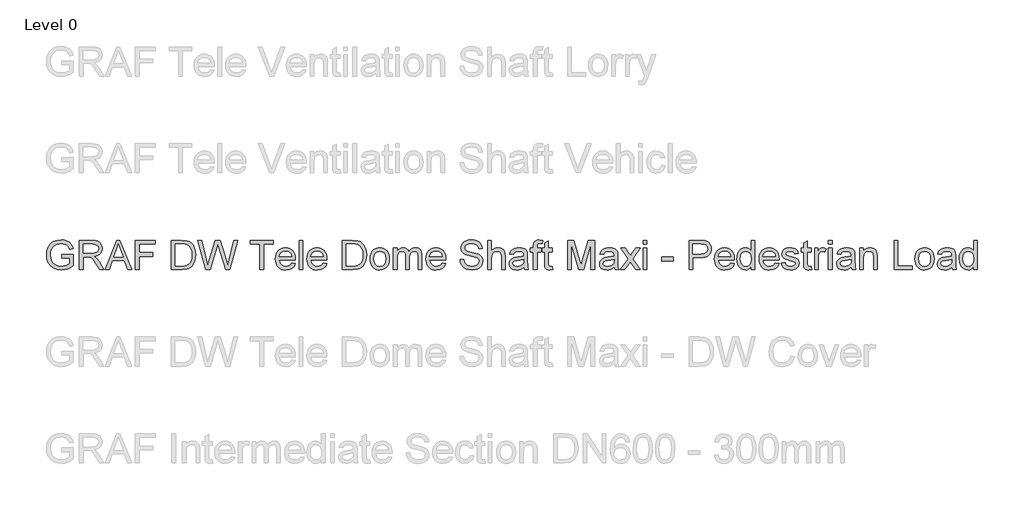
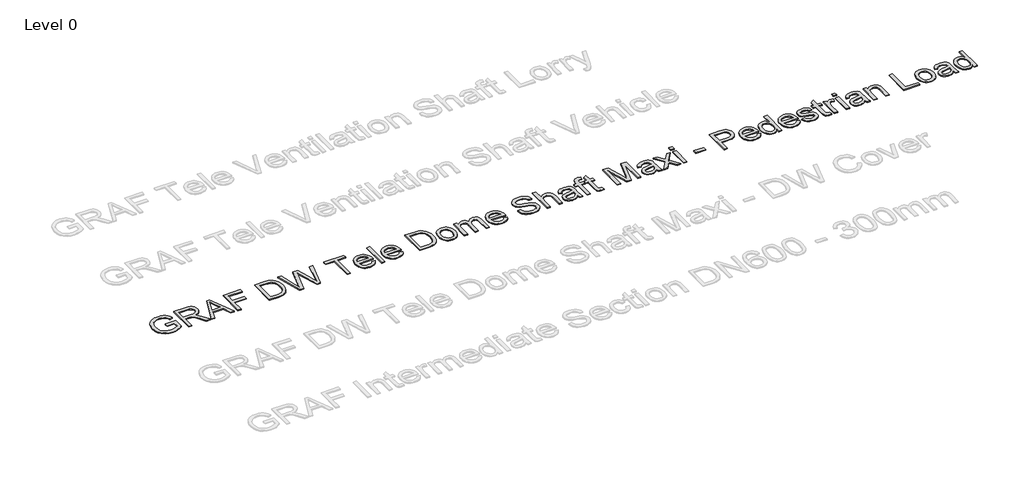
# One storey, part 18 of 25: 1 proxy.
"""IFC4 building model written with IfcOpenShell, lengths in millimetres."""

from ifc_helpers import new_model, si_unit, origin, origin_with_axes, place, context, project, spatial, polyline, outline, extrude, element, save

model = new_model("IFC4")

# Units and contexts
model_context = context("Model", 3, world=origin())
ifc_project = project(units=[si_unit("LENGTHUNIT", "METRE", prefix="MILLI")], contexts=[model_context])

# Site, building, storey
site = spatial("IfcSite", under=ifc_project)
building = spatial("IfcBuilding", under=site)
storey = spatial("IfcBuildingStorey", under=building, Name="Level 0", Elevation=0.0)

# Proxy
placement = place(None, origin())
element("IfcBuildingElementProxy", 1, Name="300mm Arial", ObjectType="300mm Arial", at=placement, inside=storey, context=model_context, shape_type="SweptSolid", body=[
    extrude(outline(polyline([(-15240.9940387, 916.7454403), (-15240.9940387, 954.4165566), (-15118.5629107, 954.4165566), (-15118.5629107, 841.7710897), (-15148.3153671, 821.0777274), (-15179.0059225, 806.2336889), (-15210.5610007, 797.2941564), (-15242.9070251, 794.3143123), (-15285.1674693, 799.050793), (-15323.3628175, 813.260235), (-15355.0926395, 836.4459978), (-15377.9565055, 868.1114405), (-15391.7796715, 906.0952565), (-15396.3873935, 948.2361391), (-15391.7980656, 990.6805243), (-15378.0300819, 1030.1634594), (-15355.6536596, 1063.282036), (-15325.2390156, 1086.6333457), (-15288.1932987, 1100.4841028), (-15245.9236575, 1105.1010218), (-15214.8928112, 1102.4246803), (-15186.9889618, 1094.3956557), (-15163.4904994, 1081.5933623), (-15145.6758138, 1064.5972141), (-15132.4964413, 1042.5886738), (-15122.9039183, 1014.7492038), (-15157.6319786, 1004.9635427), (-15165.3850917, 1024.8199734), (-15174.8120678, 1039.8019677), (-15187.2832674, 1051.0959449), (-15204.169051, 1059.8883246), (-15224.3013932, 1065.5445103), (-15246.5122687, 1067.4299055), (-15272.5123287, 1065.3973575), (-15294.7415982, 1059.2997134), (-15313.1173039, 1049.9003284), (-15327.5566722, 1037.9625577), (-15346.9440533, 1008.9366683), (-15355.7732212, 980.49939), (-15358.7162772, 949.7812434), (-15355.175413, 913.7563991), (-15344.5528204, 884.1143073), (-15327.1703961, 861.0665003), (-15303.3500369, 844.8245102), (-15275.4737787, 835.195199), (-15245.9236575, 831.9854286), (-15219.831627, 834.4042527), (-15194.3833899, 841.6607251), (-15172.2828791, 851.6579183), (-15156.234027, 862.298905), (-15156.234027, 916.7454403), (-15240.9940387, 916.7454403)])), origin_with_axes(), (0.0, 0.0, 1.0), 10.0),
    extrude(outline(polyline([(-15057.3473467, 799.0232018), (-15057.3473467, 1100.3921323), (-14927.4850024, 1100.3921323), (-14892.5821982, 1098.3595842), (-14867.1891434, 1092.2619402), (-14848.6294968, 1081.0047511), (-14834.2269167, 1063.4935682), (-14824.9838815, 1041.7793334), (-14821.9028698, 1017.912989), (-14827.0072325, 988.2249119), (-14842.3203206, 963.6136065), (-14853.9200997, 953.5842236), (-14868.3019865, 945.5689946), (-14905.4120827, 935.5809984), (-14884.0013506, 919.467767), (-14853.467145, 880.6930048), (-14803.2144645, 799.0232018), (-14846.9924219, 799.0232018), (-14886.2086426, 861.4895646), (-14914.5355562, 902.8395009), (-14934.4379722, 922.3740348), (-14952.3538253, 929.5477337), (-14974.2060158, 930.8721089), (-15019.6762304, 930.8721089), (-15019.6762304, 799.0232018), (-15057.3473467, 799.0232018)]), holes=[polyline([(-15019.6762304, 968.5432252), (-14935.3576771, 968.5432252), (-14911.1418448, 969.8767974), (-14892.3522719, 973.8775141), (-14878.2072092, 980.8120897), (-14867.9249074, 990.9472387), (-14861.6617165, 1003.2069062), (-14859.5739861, 1016.5150374), (-14863.5563087, 1034.890743), (-14875.5032765, 1049.6979933), (-14896.058683, 1059.4652603), (-14925.8663217, 1062.721016), (-15019.6762304, 1062.721016), (-15019.6762304, 968.5432252)])]), origin_with_axes(), (0.0, 0.0, 1.0), 10.0),
    extrude(outline(polyline([(-14791.0743586, 799.0232018), (-14670.7769462, 1100.3921323), (-14638.6976362, 1100.3921323), (-14518.4002238, 799.0232018), (-14558.2050557, 799.0232018), (-14592.7123868, 893.2009926), (-14716.835772, 893.2009926), (-14751.2695268, 799.0232018), (-14791.0743586, 799.0232018)]), holes=[polyline([(-14703.003409, 930.8721089), (-14606.4711735, 930.8721089), (-14633.6208647, 1004.9635427), (-14654.7372912, 1062.721016), (-14673.499273, 1011.4382658), (-14703.003409, 930.8721089)])]), origin_with_axes(), (0.0, 0.0, 1.0), 10.0),
    extrude(outline(polyline([(-14478.1539335, 799.0232018), (-14478.1539335, 1100.3921323), (-14275.6716834, 1100.3921323), (-14275.6716834, 1062.721016), (-14440.4828172, 1062.721016), (-14440.4828172, 973.2521147), (-14299.2161311, 973.2521147), (-14299.2161311, 935.5809984), (-14440.4828172, 935.5809984), (-14440.4828172, 799.0232018), (-14478.1539335, 799.0232018)])), origin_with_axes(), (0.0, 0.0, 1.0), 10.0),
    extrude(outline(polyline([(-14106.15166, 799.0232018), (-14106.15166, 1100.3921323), (-14002.1882082, 1100.3921323), (-13948.4038605, 1096.0511247), (-13924.3811662, 1087.6818093), (-13904.1108683, 1074.4932398), (-13883.2703532, 1051.5374033), (-13868.4263147, 1022.9897605), (-13859.5419645, 989.4021343), (-13856.5805145, 951.3263478), (-13858.5854714, 918.9803234), (-13864.600342, 890.515454), (-13873.7606037, 866.2812276), (-13885.2017337, 846.627132), (-13898.3719091, 831.1117089), (-13912.719307, 819.2934998), (-13929.1912233, 810.5287112), (-13948.7349543, 804.1735498), (-13997.185013, 799.0232018), (-14106.15166, 799.0232018)]), holes=[polyline([(-14068.4805437, 836.6943181), (-14001.8203262, 836.6943181), (-13974.2475706, 838.0554815), (-13953.3334792, 842.1389717), (-13937.5513416, 848.7056653), (-13925.3744476, 857.5164391), (-13912.2870456, 873.8228085), (-13902.4553993, 894.930038), (-13896.3025729, 920.930098), (-13894.2516308, 951.914959), (-13898.2707416, 992.9705897), (-13910.328074, 1023.2840661), (-13928.1427596, 1044.106187), (-13949.4339301, 1056.6877512), (-13971.1021796, 1061.2126998), (-14002.8503958, 1062.721016), (-14068.4805437, 1062.721016), (-14068.4805437, 836.6943181)])]), origin_with_axes(), (0.0, 0.0, 1.0), 10.0),
    extrude(outline(polyline([(-13750.8512291, 799.0232018), (-13833.0360668, 1100.3921323), (-13794.1877281, 1100.3921323), (-13746.5102215, 902.3244661), (-13731.7949417, 841.1824785), (-13716.0495923, 895.2611318), (-13656.3055563, 1100.3921323), (-13600.3139166, 1100.3921323), (-13556.9038412, 951.6942298), (-13538.3074064, 896.5119305), (-13524.603802, 841.1824785), (-13510.3299806, 900.5586325), (-13462.2110157, 1100.3921323), (-13423.362677, 1100.3921323), (-13505.6210911, 799.0232018), (-13545.8673814, 799.0232018), (-13618.1194052, 1031.5246228), (-13628.1993719, 1063.9718147), (-13639.5301373, 1024.9027469), (-13705.3810145, 799.0232018), (-13750.8512291, 799.0232018)])), origin_with_axes(), (0.0, 0.0, 1.0), 10.0),
    extrude(outline(polyline([(-13192.6270896, 799.0232018), (-13192.6270896, 1062.721016), (-13291.5137699, 1062.721016), (-13291.5137699, 1100.3921323), (-13056.069293, 1100.3921323), (-13056.069293, 1062.721016), (-13154.9559733, 1062.721016), (-13154.9559733, 799.0232018), (-13192.6270896, 799.0232018)])), origin_with_axes(), (0.0, 0.0, 1.0), 10.0),
    extrude(outline(polyline([(-12863.4462803, 864.9476554), (-12826.510928, 860.2387658), (-12839.8190592, 832.4084929), (-12861.0550473, 811.6047661), (-12889.7406459, 798.6369257), (-12925.3976083, 794.3143123), (-12948.7719106, 796.1790141), (-12969.59863, 801.7731197), (-12987.8777667, 811.0966291), (-13003.6093205, 824.1495421), (-13016.2598626, 840.5685754), (-13025.2959641, 859.9904455), (-13030.717625, 882.4151523), (-13032.5248453, 907.842696), (-13030.6992309, 934.1324631), (-13025.2223877, 957.3044302), (-13016.0943157, 977.3585975), (-13003.3150149, 994.2949649), (-12987.6248478, 1007.7502488), (-12969.7641769, 1017.361166), (-12949.7330023, 1023.1277162), (-12927.5313239, 1025.0498997), (-12906.0447161, 1023.1323148), (-12886.613649, 1017.3795601), (-12869.2381225, 1007.7916356), (-12853.9181366, 994.3685413), (-12841.4124481, 977.4689621), (-12832.4798134, 957.451583), (-12827.1202325, 934.3164041), (-12825.3337056, 908.0634252), (-12825.5544348, 897.9098821), (-12994.853729, 897.9098821), (-12988.3330206, 869.7117272), (-12973.1854795, 848.9815768), (-12951.3240919, 836.2344656), (-12924.6618443, 831.9854286), (-12904.6122756, 833.9535973), (-12887.726492, 839.8581033), (-12874.0044936, 850.0668287), (-12863.4462803, 864.9476554)]), holes=[polyline([(-12994.853729, 935.5809984), (-12863.0048219, 935.5809984), (-12868.0999875, 955.4834144), (-12878.0879837, 969.7204476), (-12900.0505388, 982.9641994), (-12927.6784767, 987.3787834), (-12953.0715314, 983.8563132), (-12974.0683963, 973.2889029), (-12988.6641144, 956.8169866), (-12994.853729, 935.5809984)])]), origin_with_axes(), (0.0, 0.0, 1.0), 10.0),
    extrude(outline(polyline([(-12787.6625893, 799.0232018), (-12787.6625893, 1100.3921323), (-12749.991473, 1100.3921323), (-12749.991473, 799.0232018), (-12787.6625893, 799.0232018)])), origin_with_axes(), (0.0, 0.0, 1.0), 10.0),
    extrude(outline(polyline([(-12538.5329022, 864.9476554), (-12501.5975499, 860.2387658), (-12514.905681, 832.4084929), (-12536.1416692, 811.6047661), (-12564.8272678, 798.6369257), (-12600.4842302, 794.3143123), (-12623.8585324, 796.1790141), (-12644.6852519, 801.7731197), (-12662.9643885, 811.0966291), (-12678.6959423, 824.1495421), (-12691.3464844, 840.5685754), (-12700.3825859, 859.9904455), (-12705.8042468, 882.4151523), (-12707.6114672, 907.842696), (-12705.7858527, 934.1324631), (-12700.3090095, 957.3044302), (-12691.1809375, 977.3585975), (-12678.4016367, 994.2949649), (-12662.7114696, 1007.7502488), (-12644.8507988, 1017.361166), (-12624.8196241, 1023.1277162), (-12602.6179457, 1025.0498997), (-12581.1313379, 1023.1323148), (-12561.7002708, 1017.3795601), (-12544.3247443, 1007.7916356), (-12529.0047585, 994.3685413), (-12516.4990699, 977.4689621), (-12507.5664352, 957.451583), (-12502.2068544, 934.3164041), (-12500.4203275, 908.0634252), (-12500.6410567, 897.9098821), (-12669.9403508, 897.9098821), (-12663.4196425, 869.7117272), (-12648.2721013, 848.9815768), (-12626.4107138, 836.2344656), (-12599.7484662, 831.9854286), (-12579.6988974, 833.9535973), (-12562.8131138, 839.8581033), (-12549.0911154, 850.0668287), (-12538.5329022, 864.9476554)]), holes=[polyline([(-12669.9403508, 935.5809984), (-12538.0914438, 935.5809984), (-12543.1866094, 955.4834144), (-12553.1746056, 969.7204476), (-12575.1371607, 982.9641994), (-12602.7650985, 987.3787834), (-12628.1581532, 983.8563132), (-12649.1550181, 973.2889029), (-12663.7507363, 956.8169866), (-12669.9403508, 935.5809984)])]), origin_with_axes(), (0.0, 0.0, 1.0), 10.0),
    extrude(outline(polyline([(-12340.3180832, 799.0232018), (-12340.3180832, 1100.3921323), (-12236.3546313, 1100.3921323), (-12182.5702836, 1096.0511247), (-12158.5475893, 1087.6818093), (-12138.2772914, 1074.4932398), (-12117.4367764, 1051.5374033), (-12102.5927379, 1022.9897605), (-12093.7083877, 989.4021343), (-12090.7469376, 951.3263478), (-12092.7518945, 918.9803234), (-12098.7667651, 890.515454), (-12107.9270268, 866.2812276), (-12119.3681569, 846.627132), (-12132.5383323, 831.1117089), (-12146.8857301, 819.2934998), (-12163.3576464, 810.5287112), (-12182.9013774, 804.1735498), (-12231.3514362, 799.0232018), (-12340.3180832, 799.0232018)]), holes=[polyline([(-12302.6469669, 836.6943181), (-12235.9867493, 836.6943181), (-12208.4139938, 838.0554815), (-12187.4999024, 842.1389717), (-12171.7177648, 848.7056653), (-12159.5408707, 857.5164391), (-12146.4534688, 873.8228085), (-12136.6218224, 894.930038), (-12130.4689961, 920.930098), (-12128.4180539, 951.914959), (-12132.4371647, 992.9705897), (-12144.4944971, 1023.2840661), (-12162.3091827, 1044.106187), (-12183.6003532, 1056.6877512), (-12205.2686027, 1061.2126998), (-12237.0168189, 1062.721016), (-12302.6469669, 1062.721016), (-12302.6469669, 836.6943181)])]), origin_with_axes(), (0.0, 0.0, 1.0), 10.0),
    extrude(outline(polyline([(-12053.0758213, 909.682106), (-12051.0386748, 938.3447119), (-12044.9272351, 963.0433894), (-12034.7415024, 983.7781383), (-12020.4814766, 1000.5489588), (-12006.1248817, 1011.2681204), (-11990.2783648, 1018.9246644), (-11972.9419257, 1023.5185909), (-11954.1155646, 1025.0498997), (-11933.3325312, 1023.1851978), (-11914.540659, 1017.5910922), (-11897.7399481, 1008.2675829), (-11882.9303986, 995.2146698), (-11870.8431758, 978.8738115), (-11862.2094452, 959.6864662), (-11857.0292068, 937.6526339), (-11855.3024607, 912.7723147), (-11858.3558813, 874.7149223), (-11867.516143, 845.7442152), (-11882.5165313, 824.0483745), (-11903.0903319, 807.8155815), (-11927.5268934, 797.6896296), (-11954.1155646, 794.3143123), (-11975.2021007, 796.1721164), (-11994.1687169, 801.7455286), (-12011.015413, 811.034549), (-12025.7421891, 824.0391775), (-12037.7006532, 840.538685), (-12046.2424133, 860.3123422), (-12051.3674693, 883.3601492), (-12053.0758213, 909.682106)]), holes=[polyline([(-12015.404705, 909.7556824), (-12011.0453034, 875.6622185), (-11997.9670985, 851.3728097), (-11978.2854117, 836.8322739), (-11954.1155646, 831.9854286), (-11930.0560821, 836.859865), (-11910.4111836, 851.4831743), (-11897.3329787, 876.0944798), (-11892.973577, 910.9329048), (-11897.3605698, 944.0330873), (-11910.5215482, 967.9914022), (-11930.1940379, 982.5319381), (-11954.1155646, 987.3787834), (-11978.2854117, 982.5503322), (-11997.9670985, 968.0649786), (-12011.0453034, 943.8307522), (-12015.404705, 909.7556824)])]), origin_with_axes(), (0.0, 0.0, 1.0), 10.0),
    extrude(outline(polyline([(-11812.9224549, 799.0232018), (-11812.9224549, 1020.3410101), (-11775.2513386, 1020.3410101), (-11775.2513386, 983.9206926), (-11763.9205731, 1000.6501263), (-11749.3524461, 1013.7559224), (-11732.0435982, 1022.2264053), (-11712.4906702, 1025.0498997), (-11691.5397906, 1022.171223), (-11674.7459775, 1013.5351932), (-11662.2012015, 999.7120272), (-11653.997433, 981.2719422), (-11640.2662375, 1000.4247986), (-11624.6036615, 1014.1054103), (-11607.0097051, 1022.3137773), (-11587.4843682, 1025.0498997), (-11559.1666517, 1020.49736), (-11538.2249691, 1006.8397409), (-11525.2847199, 983.7091605), (-11520.9713035, 950.7377366), (-11520.9713035, 799.0232018), (-11558.6424198, 799.0232018), (-11558.6424198, 934.5509288), (-11562.1372988, 966.0048394), (-11567.0485234, 974.6776575), (-11574.7924394, 981.4926714), (-11584.7528444, 985.9072554), (-11596.3135361, 987.3787834), (-11616.7217898, 983.6079929), (-11633.359253, 972.2956216), (-11644.423304, 952.6691171), (-11648.111321, 923.9559274), (-11648.111321, 799.0232018), (-11685.7824373, 799.0232018), (-11685.7824373, 938.7447836), (-11687.9621382, 960.0451511), (-11694.5012406, 975.2386775), (-11706.00675, 984.3437569), (-11723.0856717, 987.3787834), (-11737.5986164, 985.3554324), (-11750.9711269, 979.2853795), (-11762.0075867, 969.3157774), (-11769.5123794, 955.593779), (-11773.8165988, 936.5558857), (-11775.2513386, 910.6385992), (-11775.2513386, 799.0232018), (-11812.9224549, 799.0232018)])), origin_with_axes(), (0.0, 0.0, 1.0), 10.0),
    extrude(outline(polyline([(-11309.5127327, 864.9476554), (-11272.5773804, 860.2387658), (-11285.8855115, 832.4084929), (-11307.1214997, 811.6047661), (-11335.8070983, 798.6369257), (-11371.4640607, 794.3143123), (-11394.8383629, 796.1790141), (-11415.6650824, 801.7731197), (-11433.944219, 811.0966291), (-11449.6757728, 824.1495421), (-11462.326315, 840.5685754), (-11471.3624165, 859.9904455), (-11476.7840774, 882.4151523), (-11478.5912977, 907.842696), (-11476.7656833, 934.1324631), (-11471.2888401, 957.3044302), (-11462.1607681, 977.3585975), (-11449.3814672, 994.2949649), (-11433.6913002, 1007.7502488), (-11415.8306293, 1017.361166), (-11395.7994546, 1023.1277162), (-11373.5977762, 1025.0498997), (-11352.1111685, 1023.1323148), (-11332.6801013, 1017.3795601), (-11315.3045748, 1007.7916356), (-11299.984589, 994.3685413), (-11287.4789004, 977.4689621), (-11278.5462657, 957.451583), (-11273.1866849, 934.3164041), (-11271.400158, 908.0634252), (-11271.6208872, 897.9098821), (-11440.9201814, 897.9098821), (-11434.399473, 869.7117272), (-11419.2519318, 848.9815768), (-11397.3905443, 836.2344656), (-11370.7282967, 831.9854286), (-11350.6787279, 833.9535973), (-11333.7929444, 839.8581033), (-11320.0709459, 850.0668287), (-11309.5127327, 864.9476554)]), holes=[polyline([(-11440.9201814, 935.5809984), (-11309.0712743, 935.5809984), (-11314.1664399, 955.4834144), (-11324.1544361, 969.7204476), (-11346.1169912, 982.9641994), (-11373.744929, 987.3787834), (-11399.1379838, 983.8563132), (-11420.1348486, 973.2889029), (-11434.7305668, 956.8169866), (-11440.9201814, 935.5809984)])]), origin_with_axes(), (0.0, 0.0, 1.0), 10.0),
    extrude(outline(polyline([(-11125.4245823, 902.6187717), (-11087.753466, 902.6187717), (-11083.4308525, 881.7138773), (-11075.6133601, 864.9108672), (-11063.418072, 851.5751448), (-11045.9620713, 841.0721139), (-11024.6249156, 834.2570999), (-11000.7861623, 831.9854286), (-10979.7984945, 833.7052769), (-10961.4227888, 838.8648219), (-10946.5327651, 847.0318022), (-10936.002143, 857.7739565), (-10929.738952, 870.1072003), (-10927.6512217, 883.0474495), (-10929.2147202, 895.6566049), (-10933.9052156, 906.555109), (-10943.4333593, 915.8533264), (-10959.5098025, 923.6616218), (-11014.361008, 938.0458078), (-11050.3674582, 947.5647544), (-11073.4060682, 956.6238486), (-11092.1588529, 969.2973833), (-11105.44859, 984.6564566), (-11113.3672499, 1002.3699747), (-11116.0068032, 1022.1068437), (-11112.7418505, 1044.1705664), (-11102.9469924, 1064.7443669), (-11086.8797462, 1082.1819735), (-11064.7976295, 1094.8371141), (-11038.2917317, 1102.5350449), (-11008.9531426, 1105.1010218), (-10977.1681382, 1102.4154832), (-10949.3562594, 1094.3588675), (-10926.5107875, 1081.0967216), (-10909.6250039, 1062.7945924), (-10898.938032, 1040.592914), (-10894.6889949, 1015.6321206), (-10932.3601112, 1015.6321206), (-10939.2762927, 1038.1097105), (-10953.6972669, 1054.3333065), (-10976.2300392, 1064.1557557), (-11007.4816146, 1067.4299055), (-11039.4689541, 1064.1925439), (-11061.4131151, 1054.4804593), (-11074.105044, 1040.1882438), (-11078.3356869, 1023.2104897), (-11075.3374487, 1008.7343332), (-11066.3427339, 997.090868), (-11045.0791545, 986.6798076), (-11004.8328643, 976.0480179), (-10963.298987, 965.9496571), (-10938.1726467, 957.1388833), (-10916.6975353, 943.4720672), (-10901.715541, 926.6046777), (-10892.9139643, 906.7206559), (-10889.9801054, 884.0039427), (-10893.3554227, 860.7813918), (-10903.4813746, 838.9383983), (-10919.9440939, 820.1396283), (-10942.3297133, 806.0497479), (-10969.2494783, 797.2481712), (-10999.3146343, 794.3143123), (-11036.2223955, 797.4780974), (-11066.6002513, 806.9694529), (-11090.7976895, 822.8251669), (-11109.1641981, 845.0820276), (-11120.9548161, 872.1949307), (-11125.4245823, 902.6187717)])), origin_with_axes(), (0.0, 0.0, 1.0), 10.0),
    extrude(outline(polyline([(-10838.1823205, 799.0232018), (-10838.1823205, 1100.3921323), (-10800.5112042, 1100.3921323), (-10800.5112042, 989.5860753), (-10786.6742426, 1005.1014985), (-10771.1358268, 1016.1839436), (-10753.8959568, 1022.8334106), (-10734.9546326, 1025.0498997), (-10712.2011312, 1022.6310755), (-10692.6482032, 1015.3746032), (-10677.2523417, 1003.8506997), (-10666.9700399, 988.6295821), (-10661.1758985, 967.7154907), (-10659.244518, 939.1126656), (-10659.244518, 799.0232018), (-10696.9156343, 799.0232018), (-10696.9156343, 935.2131164), (-10699.9138726, 958.7943523), (-10708.9085874, 974.9443719), (-10723.403138, 984.2701805), (-10742.9008837, 987.3787834), (-10758.8209771, 985.281856), (-10773.7661831, 978.9910739), (-10786.1454122, 969.1134423), (-10794.3675748, 956.2559666), (-10798.9752968, 939.1678479), (-10800.5112042, 916.5982875), (-10800.5112042, 799.0232018), (-10838.1823205, 799.0232018)])), origin_with_axes(), (0.0, 0.0, 1.0), 10.0),
    extrude(outline(polyline([(-10466.1800469, 827.2765391), (-10484.1786736, 811.8438894), (-10502.7107291, 801.7455286), (-10522.1992778, 796.1721164), (-10543.0673839, 794.3143123), (-10574.5488857, 798.7840785), (-10597.7714366, 812.1933772), (-10612.0912433, 832.5556457), (-10616.8645122, 857.8843211), (-10615.0618904, 873.5009117), (-10609.6540251, 887.6827627), (-10601.3123008, 899.8228685), (-10590.7081023, 909.314224), (-10564.3309633, 921.675059), (-10531.7366185, 927.3404417), (-10493.2193736, 933.3001301), (-10466.4007761, 940.289888), (-10466.1800469, 948.6775975), (-10468.773615, 965.4898046), (-10476.5543192, 976.4894763), (-10493.9551376, 984.6564566), (-10518.1985611, 987.3787834), (-10540.6393628, 985.5669645), (-10556.3111358, 980.131508), (-10566.9981077, 970.0791325), (-10574.4845063, 954.4165566), (-10612.1556226, 959.1254461), (-10605.6165202, 979.7268379), (-10595.8584502, 995.9136456), (-10581.9709049, 1008.2928748), (-10563.0433763, 1017.4715306), (-10539.8944017, 1023.1553074), (-10513.3425187, 1025.0498997), (-10487.8758876, 1023.3760366), (-10467.6883631, 1018.3544473), (-10452.4672456, 1010.8036694), (-10441.8998353, 1001.5422402), (-10434.8916832, 990.0919131), (-10430.3483406, 975.9744415), (-10428.5089306, 943.0122147), (-10428.5089306, 896.1440485), (-10426.5959443, 830.6978416), (-10419.0911516, 799.0232018), (-10456.7622679, 799.0232018), (-10466.1800469, 827.2765391)]), holes=[polyline([(-10466.1800469, 902.6187717), (-10526.9541525, 891.067277), (-10559.3645563, 884.9604359), (-10574.0430479, 875.027622), (-10579.1933959, 860.5330714), (-10576.3882956, 849.3310647), (-10567.972995, 840.1524089), (-10554.1314349, 834.0271737), (-10535.0475564, 831.9854286), (-10514.8140467, 834.2387058), (-10496.9349817, 840.9985375), (-10482.4404311, 850.9589425), (-10472.3604645, 862.8139398), (-10467.8906982, 875.027622), (-10466.4007761, 891.9501938), (-10466.1800469, 902.6187717)])]), origin_with_axes(), (0.0, 0.0, 1.0), 10.0),
    extrude(outline(polyline([(-10367.2933666, 799.0232018), (-10367.2933666, 982.6698938), (-10400.2555934, 982.6698938), (-10400.2555934, 1020.3410101), (-10367.2933666, 1020.3410101), (-10367.2933666, 1042.634659), (-10363.3202411, 1074.0517814), (-10355.741872, 1086.5781634), (-10344.0432245, 1096.4925831), (-10327.6724758, 1102.9489121), (-10306.0778026, 1105.1010218), (-10271.7176243, 1100.9807435), (-10277.2358542, 1065.6640719), (-10298.9408919, 1067.4299055), (-10313.2606986, 1065.866407), (-10322.6692806, 1061.1759116), (-10327.8840079, 1052.217985), (-10329.6222503, 1037.8521931), (-10329.6222503, 1020.3410101), (-10287.2422445, 1020.3410101), (-10287.2422445, 982.6698938), (-10329.6222503, 982.6698938), (-10329.6222503, 799.0232018), (-10367.2933666, 799.0232018)])), origin_with_axes(), (0.0, 0.0, 1.0), 10.0),
    extrude(outline(polyline([(-10174.2288956, 830.4403242), (-10169.520006, 797.9195558), (-10197.6997669, 794.3143123), (-10215.7811669, 795.8778108), (-10229.264042, 800.5683062), (-10238.7921857, 807.7971874), (-10245.0093914, 816.9758432), (-10248.430694, 832.7395867), (-10249.5711282, 859.723731), (-10249.5711282, 982.6698938), (-10277.8244654, 982.6698938), (-10277.8244654, 1020.3410101), (-10249.5711282, 1020.3410101), (-10249.5711282, 1074.1253578), (-10211.9000119, 1096.2718539), (-10211.9000119, 1020.3410101), (-10174.2288956, 1020.3410101), (-10174.2288956, 982.6698938), (-10211.9000119, 982.6698938), (-10211.9000119, 860.827377), (-10209.9134491, 841.4032077), (-10203.4755142, 834.5238144), (-10190.6364325, 831.9854286), (-10174.2288956, 830.4403242)])), origin_with_axes(), (0.0, 0.0, 1.0), 10.0),
    extrude(outline(polyline([(-10014.1266513, 799.0232018), (-10014.1266513, 1100.3921323), (-9949.3058437, 1100.3921323), (-9887.6488213, 887.9770683), (-9875.2144099, 843.6104996), (-9861.7499289, 891.6558882), (-9801.1229761, 1100.3921323), (-9736.3021685, 1100.3921323), (-9736.3021685, 799.0232018), (-9773.9732848, 799.0232018), (-9773.9732848, 1062.721016), (-9849.6833994, 799.0232018), (-9900.7454204, 799.0232018), (-9976.455535, 1062.721016), (-9976.455535, 799.0232018), (-10014.1266513, 799.0232018)])), origin_with_axes(), (0.0, 0.0, 1.0), 10.0),
    extrude(outline(polyline([(-9533.8199184, 827.2765391), (-9551.818545, 811.8438894), (-9570.3506005, 801.7455286), (-9589.8391492, 796.1721164), (-9610.7072554, 794.3143123), (-9642.1887571, 798.7840785), (-9665.411308, 812.1933772), (-9679.7311147, 832.5556457), (-9684.5043836, 857.8843211), (-9682.7017618, 873.5009117), (-9677.2938965, 887.6827627), (-9668.9521722, 899.8228685), (-9658.3479737, 909.314224), (-9631.9708347, 921.675059), (-9599.3764899, 927.3404417), (-9560.859245, 933.3001301), (-9534.0406476, 940.289888), (-9533.8199184, 948.6775975), (-9536.4134864, 965.4898046), (-9544.1941906, 976.4894763), (-9561.595009, 984.6564566), (-9585.8384325, 987.3787834), (-9608.2792342, 985.5669645), (-9623.9510072, 980.131508), (-9634.6379791, 970.0791325), (-9642.1243777, 954.4165566), (-9679.795494, 959.1254461), (-9673.2563916, 979.7268379), (-9663.4983217, 995.9136456), (-9649.6107763, 1008.2928748), (-9630.6832477, 1017.4715306), (-9607.5342731, 1023.1553074), (-9580.9823901, 1025.0498997), (-9555.515759, 1023.3760366), (-9535.3282345, 1018.3544473), (-9520.107117, 1010.8036694), (-9509.5397067, 1001.5422402), (-9502.5315547, 990.0919131), (-9497.988212, 975.9744415), (-9496.1488021, 943.0122147), (-9496.1488021, 896.1440485), (-9494.2358157, 830.6978416), (-9486.731023, 799.0232018), (-9524.4021393, 799.0232018), (-9533.8199184, 827.2765391)]), holes=[polyline([(-9533.8199184, 902.6187717), (-9594.594024, 891.067277), (-9627.0044277, 884.9604359), (-9641.6829193, 875.027622), (-9646.8332673, 860.5330714), (-9644.0281671, 849.3310647), (-9635.6128664, 840.1524089), (-9621.7713064, 834.0271737), (-9602.6874279, 831.9854286), (-9582.4539181, 834.2387058), (-9564.5748532, 840.9985375), (-9550.0803025, 850.9589425), (-9540.0003359, 862.8139398), (-9535.5305696, 875.027622), (-9534.0406476, 891.9501938), (-9533.8199184, 902.6187717)])]), origin_with_axes(), (0.0, 0.0, 1.0), 10.0),
    extrude(outline(polyline([(-9467.8954648, 799.0232018), (-9387.4028843, 910.2707172), (-9463.1865753, 1020.3410101), (-9417.8635135, 1020.3410101), (-9381.2960432, 967.3660028), (-9364.2263186, 942.3500271), (-9349.4374624, 962.8042661), (-9307.7932205, 1020.3410101), (-9262.4701587, 1020.3410101), (-9342.0798225, 910.2707172), (-9265.4132147, 799.0232018), (-9310.7362765, 799.0232018), (-9356.8686787, 865.9041485), (-9365.3299646, 878.1178308), (-9422.572403, 799.0232018), (-9467.8954648, 799.0232018)])), origin_with_axes(), (0.0, 0.0, 1.0), 10.0),
    extrude(outline(polyline([(-9232.4509879, 799.0232018), (-9232.4509879, 1020.3410101), (-9194.7798716, 1020.3410101), (-9194.7798716, 799.0232018), (-9232.4509879, 799.0232018)])), origin_with_axes(), (0.0, 0.0, 1.0), 10.0),
    extrude(outline(polyline([(-9232.4509879, 1062.721016), (-9232.4509879, 1100.3921323), (-9194.7798716, 1100.3921323), (-9194.7798716, 1062.721016), (-9232.4509879, 1062.721016)])), origin_with_axes(), (0.0, 0.0, 1.0), 10.0),
    extrude(outline(polyline([(-9039.3865168, 888.492103), (-9039.3865168, 926.1632194), (-8921.6642784, 926.1632194), (-8921.6642784, 888.492103), (-9039.3865168, 888.492103)])), origin_with_axes(), (0.0, 0.0, 1.0), 10.0),
    extrude(outline(polyline([(-8756.8531445, 799.0232018), (-8756.8531445, 1100.3921323), (-8645.1641708, 1100.3921323), (-8600.1354146, 1097.5226527), (-8580.0582547, 1092.1607726), (-8563.5311561, 1083.4327723), (-8550.2230249, 1070.9431786), (-8539.8027674, 1054.2965183), (-8533.0705269, 1034.6608168), (-8530.8264467, 1013.2040994), (-8532.3416607, 994.7042336), (-8536.8873026, 977.6850928), (-8544.4633724, 962.146677), (-8555.0698702, 948.0889863), (-8569.6310994, 936.4363241), (-8589.0713636, 928.1129939), (-8613.3906627, 923.1189958), (-8642.5889968, 921.4543298), (-8719.1820282, 921.4543298), (-8719.1820282, 799.0232018), (-8756.8531445, 799.0232018)]), holes=[polyline([(-8719.1820282, 959.1254461), (-8640.3817049, 959.1254461), (-8606.9780197, 962.5835369), (-8584.9051, 972.9578091), (-8572.5994473, 989.6044694), (-8568.497563, 1011.8797242), (-8570.9163871, 1028.802296), (-8578.1728595, 1043.0761174), (-8589.3656692, 1053.8182717), (-8603.5935054, 1060.145842), (-8641.2646217, 1062.721016), (-8719.1820282, 1062.721016), (-8719.1820282, 959.1254461)])]), origin_with_axes(), (0.0, 0.0, 1.0), 10.0),
    extrude(outline(polyline([(-8328.785655, 864.9476554), (-8291.8503026, 860.2387658), (-8305.1584338, 832.4084929), (-8326.394422, 811.6047661), (-8355.0800206, 798.6369257), (-8390.7369829, 794.3143123), (-8414.1112852, 796.1790141), (-8434.9380047, 801.7731197), (-8453.2171413, 811.0966291), (-8468.9486951, 824.1495421), (-8481.5992372, 840.5685754), (-8490.6353387, 859.9904455), (-8496.0569996, 882.4151523), (-8497.8642199, 907.842696), (-8496.0386055, 934.1324631), (-8490.5617623, 957.3044302), (-8481.4336903, 977.3585975), (-8468.6543895, 994.2949649), (-8452.9642224, 1007.7502488), (-8435.1035516, 1017.361166), (-8415.0723769, 1023.1277162), (-8392.8706985, 1025.0498997), (-8371.3840907, 1023.1323148), (-8351.9530236, 1017.3795601), (-8334.5774971, 1007.7916356), (-8319.2575113, 994.3685413), (-8306.7518227, 977.4689621), (-8297.819188, 957.451583), (-8292.4596072, 934.3164041), (-8290.6730803, 908.0634252), (-8290.8938095, 897.9098821), (-8460.1931036, 897.9098821), (-8453.6723953, 869.7117272), (-8438.5248541, 848.9815768), (-8416.6634666, 836.2344656), (-8390.001219, 831.9854286), (-8369.9516502, 833.9535973), (-8353.0658666, 839.8581033), (-8339.3438682, 850.0668287), (-8328.785655, 864.9476554)]), holes=[polyline([(-8460.1931036, 935.5809984), (-8328.3441966, 935.5809984), (-8333.4393622, 955.4834144), (-8343.4273584, 969.7204476), (-8365.3899135, 982.9641994), (-8393.0178513, 987.3787834), (-8418.410906, 983.8563132), (-8439.4077709, 973.2889029), (-8454.0034891, 956.8169866), (-8460.1931036, 935.5809984)])]), origin_with_axes(), (0.0, 0.0, 1.0), 10.0),
    extrude(outline(polyline([(-8116.4441673, 799.0232018), (-8116.4441673, 834.5606026), (-8127.715152, 816.9528506), (-8141.3681725, 804.3758849), (-8157.403229, 796.8297054), (-8175.8203214, 794.3143123), (-8200.1741094, 797.956344), (-8222.4677584, 808.8824393), (-8241.3401047, 826.3292429), (-8255.4299851, 849.5333998), (-8264.2039707, 877.5568107), (-8267.1286326, 909.4613768), (-8264.433897, 940.9704697), (-8256.3496901, 969.426142), (-8242.8852091, 993.209713), (-8224.0496509, 1010.7025018), (-8201.2685584, 1021.4630502), (-8175.9674742, 1025.0498997), (-8157.5365862, 1022.4839227), (-8141.2394138, 1014.785992), (-8127.4254449, 1002.986177), (-8116.4441673, 988.1145473), (-8116.4441673, 1100.3921323), (-8078.773051, 1100.3921323), (-8078.773051, 799.0232018), (-8116.4441673, 799.0232018)]), holes=[polyline([(-8229.4575163, 909.6085296), (-8225.2084792, 875.5334598), (-8212.4613681, 851.2992333), (-8193.9385096, 836.8138798), (-8172.3622306, 831.9854286), (-8150.7951486, 836.5931506), (-8132.7413397, 850.4163165), (-8120.5184604, 873.7124439), (-8116.4441673, 906.73905), (-8120.5920368, 942.8466678), (-8133.0356453, 967.8810376), (-8151.5493067, 982.5043469), (-8173.907335, 987.3787834), (-8195.7043432, 982.697485), (-8213.5650141, 968.6535898), (-8225.4843907, 944.529728), (-8229.4575163, 909.6085296)])]), origin_with_axes(), (0.0, 0.0, 1.0), 10.0),
    extrude(outline(polyline([(-7867.3144802, 864.9476554), (-7830.3791279, 860.2387658), (-7843.6872591, 832.4084929), (-7864.9232472, 811.6047661), (-7893.6088458, 798.6369257), (-7929.2658082, 794.3143123), (-7952.6401105, 796.1790141), (-7973.4668299, 801.7731197), (-7991.7459666, 811.0966291), (-8007.4775204, 824.1495421), (-8020.1280625, 840.5685754), (-8029.164164, 859.9904455), (-8034.5858249, 882.4151523), (-8036.3930452, 907.842696), (-8034.5674308, 934.1324631), (-8029.0905876, 957.3044302), (-8019.9625156, 977.3585975), (-8007.1832148, 994.2949649), (-7991.4930477, 1007.7502488), (-7973.6323768, 1017.361166), (-7953.6012022, 1023.1277162), (-7931.3995238, 1025.0498997), (-7909.912916, 1023.1323148), (-7890.4818489, 1017.3795601), (-7873.1063224, 1007.7916356), (-7857.7863365, 994.3685413), (-7845.280648, 977.4689621), (-7836.3480133, 957.451583), (-7830.9884324, 934.3164041), (-7829.2019055, 908.0634252), (-7829.4226347, 897.9098821), (-7998.7219289, 897.9098821), (-7992.2012205, 869.7117272), (-7977.0536794, 848.9815768), (-7955.1922918, 836.2344656), (-7928.5300442, 831.9854286), (-7908.4804755, 833.9535973), (-7891.5946919, 839.8581033), (-7877.8726935, 850.0668287), (-7867.3144802, 864.9476554)]), holes=[polyline([(-7998.7219289, 935.5809984), (-7866.8730218, 935.5809984), (-7871.9681874, 955.4834144), (-7881.9561836, 969.7204476), (-7903.9187387, 982.9641994), (-7931.5466766, 987.3787834), (-7956.9397313, 983.8563132), (-7977.9365962, 973.2889029), (-7992.5323143, 956.8169866), (-7998.7219289, 935.5809984)])]), origin_with_axes(), (0.0, 0.0, 1.0), 10.0),
    extrude(outline(polyline([(-7805.6574578, 864.9476554), (-7767.9863415, 869.6565449), (-7762.0450473, 853.5433135), (-7750.5487349, 841.6975133), (-7733.4238281, 834.4134498), (-7710.5967503, 831.9854286), (-7688.045584, 834.2111147), (-7672.18987, 840.8881729), (-7662.8088791, 850.5634693), (-7659.6818821, 861.7838702), (-7662.8272732, 871.3855903), (-7672.2634464, 878.706442), (-7711.0382087, 889.4485962), (-7767.7656123, 907.8794842), (-7782.1222072, 917.1409134), (-7792.5240706, 929.4005809), (-7798.8424439, 943.8767374), (-7800.9485683, 959.7876337), (-7799.2563111, 974.3833519), (-7794.1795396, 987.8570299), (-7786.1781062, 999.675239), (-7775.7118634, 1009.3045503), (-7751.7627455, 1020.4513747), (-7719.3523418, 1025.0498997), (-7694.8330068, 1023.2012926), (-7673.5142452, 1017.6554716), (-7656.3709442, 1008.9550624), (-7644.3779911, 997.642691), (-7636.43174, 982.881426), (-7631.4285449, 963.8343357), (-7669.0996612, 959.1254461), (-7673.854536, 970.9804434), (-7683.263118, 979.9107789), (-7697.4173778, 985.5117822), (-7716.4092858, 987.3787834), (-7738.0407471, 985.5945557), (-7752.4617213, 980.2418726), (-7760.5735193, 972.5163507), (-7763.277452, 963.6136065), (-7758.7892916, 952.650723), (-7744.7361994, 944.3365899), (-7712.2890074, 936.3167624), (-7656.9963436, 918.5848503), (-7642.3914284, 910.1051703), (-7631.3181803, 898.4984933), (-7624.3376194, 883.7280312), (-7622.0107658, 865.7569957), (-7624.7422896, 847.178955), (-7632.9368611, 829.7045602), (-7646.2817805, 814.7041719), (-7664.4643481, 803.5481504), (-7686.4269032, 796.6227718), (-7711.1117851, 794.3143123), (-7749.0956011, 798.7656844), (-7776.8155094, 812.1198009), (-7795.3199738, 834.2295088), (-7805.6574578, 864.9476554)])), origin_with_axes(), (0.0, 0.0, 1.0), 10.0),
    extrude(outline(polyline([(-7499.5796378, 830.4403242), (-7494.8707483, 797.9195558), (-7523.0505091, 794.3143123), (-7541.1319092, 795.8778108), (-7554.6147843, 800.5683062), (-7564.142928, 807.7971874), (-7570.3601337, 816.9758432), (-7573.7814363, 832.7395867), (-7574.9218704, 859.723731), (-7574.9218704, 982.6698938), (-7603.1752077, 982.6698938), (-7603.1752077, 1020.3410101), (-7574.9218704, 1020.3410101), (-7574.9218704, 1074.1253578), (-7537.2507541, 1096.2718539), (-7537.2507541, 1020.3410101), (-7499.5796378, 1020.3410101), (-7499.5796378, 982.6698938), (-7537.2507541, 982.6698938), (-7537.2507541, 860.827377), (-7535.2641914, 841.4032077), (-7528.8262564, 834.5238144), (-7515.9871748, 831.9854286), (-7499.5796378, 830.4403242)])), origin_with_axes(), (0.0, 0.0, 1.0), 10.0),
    extrude(outline(polyline([(-7461.9085215, 799.0232018), (-7461.9085215, 1020.3410101), (-7428.9462948, 1020.3410101), (-7428.9462948, 987.5995125), (-7416.7694007, 1006.5822235), (-7405.5489999, 1017.7658362), (-7394.2918108, 1023.2288838), (-7382.0045522, 1025.0498997), (-7363.2425704, 1022.1436319), (-7344.1862831, 1013.4248286), (-7356.7678473, 979.6532615), (-7370.0115991, 985.4474029), (-7383.255351, 987.3787834), (-7394.503343, 985.5209793), (-7404.5557185, 979.947567), (-7412.6767135, 971.081611), (-7418.1305641, 959.3461753), (-7422.7106949, 938.3033252), (-7424.2374052, 915.3474887), (-7424.2374052, 799.0232018), (-7461.9085215, 799.0232018)])), origin_with_axes(), (0.0, 0.0, 1.0), 10.0),
    extrude(outline(polyline([(-7320.6418354, 799.0232018), (-7320.6418354, 1020.3410101), (-7282.9707191, 1020.3410101), (-7282.9707191, 799.0232018), (-7320.6418354, 799.0232018)])), origin_with_axes(), (0.0, 0.0, 1.0), 10.0),
    extrude(outline(polyline([(-7320.6418354, 1062.721016), (-7320.6418354, 1100.3921323), (-7282.9707191, 1100.3921323), (-7282.9707191, 1062.721016), (-7320.6418354, 1062.721016)])), origin_with_axes(), (0.0, 0.0, 1.0), 10.0),
    extrude(outline(polyline([(-7085.1973585, 827.2765391), (-7103.1959851, 811.8438894), (-7121.7280406, 801.7455286), (-7141.2165893, 796.1721164), (-7162.0846955, 794.3143123), (-7193.5661972, 798.7840785), (-7216.7887481, 812.1933772), (-7231.1085548, 832.5556457), (-7235.8818237, 857.8843211), (-7234.0792019, 873.5009117), (-7228.6713366, 887.6827627), (-7220.3296123, 899.8228685), (-7209.7254138, 909.314224), (-7183.3482748, 921.675059), (-7150.75393, 927.3404417), (-7112.2366851, 933.3001301), (-7085.4180877, 940.289888), (-7085.1973585, 948.6775975), (-7087.7909265, 965.4898046), (-7095.5716307, 976.4894763), (-7112.9724491, 984.6564566), (-7137.2158726, 987.3787834), (-7159.6566743, 985.5669645), (-7175.3284473, 980.131508), (-7186.0154192, 970.0791325), (-7193.5018178, 954.4165566), (-7231.1729342, 959.1254461), (-7224.6338317, 979.7268379), (-7214.8757618, 995.9136456), (-7200.9882164, 1008.2928748), (-7182.0606878, 1017.4715306), (-7158.9117132, 1023.1553074), (-7132.3598302, 1025.0498997), (-7106.8931991, 1023.3760366), (-7086.7056746, 1018.3544473), (-7071.4845571, 1010.8036694), (-7060.9171468, 1001.5422402), (-7053.9089948, 990.0919131), (-7049.3656521, 975.9744415), (-7047.5262422, 943.0122147), (-7047.5262422, 896.1440485), (-7045.6132558, 830.6978416), (-7038.1084631, 799.0232018), (-7075.7795794, 799.0232018), (-7085.1973585, 827.2765391)]), holes=[polyline([(-7085.1973585, 902.6187717), (-7145.9714641, 891.067277), (-7178.3818678, 884.9604359), (-7193.0603595, 875.027622), (-7198.2107074, 860.5330714), (-7195.4056072, 849.3310647), (-7186.9903065, 840.1524089), (-7173.1487465, 834.0271737), (-7154.064868, 831.9854286), (-7133.8313582, 834.2387058), (-7115.9522933, 840.9985375), (-7101.4577427, 850.9589425), (-7091.377776, 862.8139398), (-7086.9080097, 875.027622), (-7085.4180877, 891.9501938), (-7085.1973585, 902.6187717)])]), origin_with_axes(), (0.0, 0.0, 1.0), 10.0),
    extrude(outline(polyline([(-6995.7284572, 799.0232018), (-6995.7284572, 1020.3410101), (-6958.0573409, 1020.3410101), (-6958.0573409, 989.4389225), (-6944.969939, 1005.018725), (-6929.2521807, 1016.1471554), (-6910.9040662, 1022.8242136), (-6889.9255954, 1025.0498997), (-6871.3567517, 1023.2564749), (-6854.3514065, 1017.8762008), (-6840.1695556, 1009.5804618), (-6830.0711948, 999.0406426), (-6818.7772176, 971.3391284), (-6816.7906548, 934.9188108), (-6816.7906548, 799.0232018), (-6854.4617711, 799.0232018), (-6854.4617711, 929.8420393), (-6858.8027786, 963.1721481), (-6864.8084522, 973.0957649), (-6874.1434578, 980.7936956), (-6886.1088197, 985.7325114), (-6900.0055621, 987.3787834), (-6922.0692848, 983.6815693), (-6940.8772518, 972.5899271), (-6948.3935408, 963.5354315), (-6953.7623186, 951.1608009), (-6958.0573409, 916.4511347), (-6958.0573409, 799.0232018), (-6995.7284572, 799.0232018)])), origin_with_axes(), (0.0, 0.0, 1.0), 10.0),
    extrude(outline(polyline([(-6642.5617419, 799.0232018), (-6642.5617419, 1100.3921323), (-6604.8906256, 1100.3921323), (-6604.8906256, 836.6943181), (-6454.2061603, 836.6943181), (-6454.2061603, 799.0232018), (-6642.5617419, 799.0232018)])), origin_with_axes(), (0.0, 0.0, 1.0), 10.0),
    extrude(outline(polyline([(-6425.9528231, 909.682106), (-6423.9156766, 938.3447119), (-6417.8042369, 963.0433894), (-6407.6185042, 983.7781383), (-6393.3584783, 1000.5489588), (-6379.0018835, 1011.2681204), (-6363.1553665, 1018.9246644), (-6345.8189275, 1023.5185909), (-6326.9925664, 1025.0498997), (-6306.2095329, 1023.1851978), (-6287.4176608, 1017.5910922), (-6270.6169499, 1008.2675829), (-6255.8074003, 995.2146698), (-6243.7201775, 978.8738115), (-6235.086447, 959.6864662), (-6229.9062086, 937.6526339), (-6228.1794625, 912.7723147), (-6231.2328831, 874.7149223), (-6240.3931447, 845.7442152), (-6255.3935331, 824.0483745), (-6275.9673337, 807.8155815), (-6300.4038952, 797.6896296), (-6326.9925664, 794.3143123), (-6348.0791025, 796.1721164), (-6367.0457186, 801.7455286), (-6383.8924147, 811.034549), (-6398.6191909, 824.0391775), (-6410.577655, 840.538685), (-6419.119415, 860.3123422), (-6424.2444711, 883.3601492), (-6425.9528231, 909.682106)]), holes=[polyline([(-6388.2817068, 909.7556824), (-6383.9223052, 875.6622185), (-6370.8441002, 851.3728097), (-6351.1624135, 836.8322739), (-6326.9925664, 831.9854286), (-6302.9330839, 836.859865), (-6283.2881854, 851.4831743), (-6270.2099804, 876.0944798), (-6265.8505788, 910.9329048), (-6270.2375716, 944.0330873), (-6283.39855, 967.9914022), (-6303.0710397, 982.5319381), (-6326.9925664, 987.3787834), (-6351.1624135, 982.5503322), (-6370.8441002, 968.0649786), (-6383.9223052, 943.8307522), (-6388.2817068, 909.7556824)])]), origin_with_axes(), (0.0, 0.0, 1.0), 10.0),
    extrude(outline(polyline([(-6044.5327705, 827.2765391), (-6062.5313971, 811.8438894), (-6081.0634526, 801.7455286), (-6100.5520013, 796.1721164), (-6121.4201075, 794.3143123), (-6152.9016092, 798.7840785), (-6176.1241602, 812.1933772), (-6190.4439668, 832.5556457), (-6195.2172357, 857.8843211), (-6193.414614, 873.5009117), (-6188.0067486, 887.6827627), (-6179.6650244, 899.8228685), (-6169.0608259, 909.314224), (-6142.6836868, 921.675059), (-6110.089342, 927.3404417), (-6071.5720972, 933.3001301), (-6044.7534997, 940.289888), (-6044.5327705, 948.6775975), (-6047.1263386, 965.4898046), (-6054.9070428, 976.4894763), (-6072.3078611, 984.6564566), (-6096.5512846, 987.3787834), (-6118.9920863, 985.5669645), (-6134.6638593, 980.131508), (-6145.3508313, 970.0791325), (-6152.8372299, 954.4165566), (-6190.5083462, 959.1254461), (-6183.9692437, 979.7268379), (-6174.2111738, 995.9136456), (-6160.3236285, 1008.2928748), (-6141.3960998, 1017.4715306), (-6118.2471253, 1023.1553074), (-6091.6952423, 1025.0498997), (-6066.2286112, 1023.3760366), (-6046.0410867, 1018.3544473), (-6030.8199691, 1010.8036694), (-6020.2525588, 1001.5422402), (-6013.2444068, 990.0919131), (-6008.7010642, 975.9744415), (-6006.8616542, 943.0122147), (-6006.8616542, 896.1440485), (-6004.9486678, 830.6978416), (-5997.4438751, 799.0232018), (-6035.1149914, 799.0232018), (-6044.5327705, 827.2765391)]), holes=[polyline([(-6044.5327705, 902.6187717), (-6105.3068761, 891.067277), (-6137.7172799, 884.9604359), (-6152.3957715, 875.027622), (-6157.5461194, 860.5330714), (-6154.7410192, 849.3310647), (-6146.3257186, 840.1524089), (-6132.4841585, 834.0271737), (-6113.40028, 831.9854286), (-6093.1667703, 834.2387058), (-6075.2877053, 840.9985375), (-6060.7931547, 850.9589425), (-6050.713188, 862.8139398), (-6046.2434218, 875.027622), (-6044.7534997, 891.9501938), (-6044.5327705, 902.6187717)])]), origin_with_axes(), (0.0, 0.0, 1.0), 10.0),
    extrude(outline(polyline([(-5818.5060727, 799.0232018), (-5818.5060727, 834.5606026), (-5829.7770573, 816.9528506), (-5843.4300778, 804.3758849), (-5859.4651343, 796.8297054), (-5877.8822267, 794.3143123), (-5902.2360148, 797.956344), (-5924.5296637, 808.8824393), (-5943.40201, 826.3292429), (-5957.4918904, 849.5333998), (-5966.265876, 877.5568107), (-5969.1905379, 909.4613768), (-5966.4958023, 940.9704697), (-5958.4115954, 969.426142), (-5944.9471144, 993.209713), (-5926.1115563, 1010.7025018), (-5903.3304637, 1021.4630502), (-5878.0293795, 1025.0498997), (-5859.5984915, 1022.4839227), (-5843.3013191, 1014.785992), (-5829.4873502, 1002.986177), (-5818.5060727, 988.1145473), (-5818.5060727, 1100.3921323), (-5780.8349564, 1100.3921323), (-5780.8349564, 799.0232018), (-5818.5060727, 799.0232018)]), holes=[polyline([(-5931.5194216, 909.6085296), (-5927.2703845, 875.5334598), (-5914.5232734, 851.2992333), (-5896.000415, 836.8138798), (-5874.4241359, 831.9854286), (-5852.857054, 836.5931506), (-5834.8032451, 850.4163165), (-5822.5803658, 873.7124439), (-5818.5060727, 906.73905), (-5822.6539422, 942.8466678), (-5835.0975507, 967.8810376), (-5853.6112121, 982.5043469), (-5875.9692403, 987.3787834), (-5897.7662485, 982.697485), (-5915.6269194, 968.6535898), (-5927.546296, 944.529728), (-5931.5194216, 909.6085296)])]), origin_with_axes(), (0.0, 0.0, 1.0), 10.0),
])

save(model, "model.ifc")
